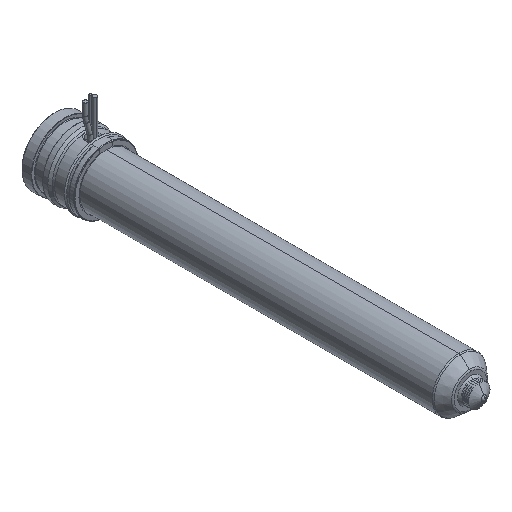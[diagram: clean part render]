
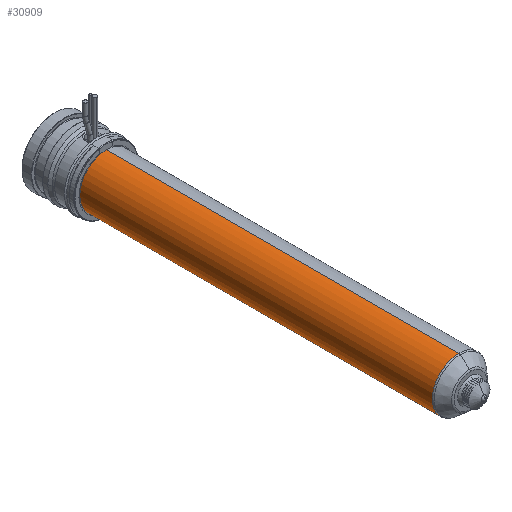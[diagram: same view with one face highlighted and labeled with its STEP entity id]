
A CAD part, isometric view. The second image highlights one B-rep face of the part: STEP entity #30909.
In plain terms, the highlighted cylindrical face has radius 12 mm (diameter 24 mm), a partial arc.
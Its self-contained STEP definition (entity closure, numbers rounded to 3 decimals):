
#30394=CARTESIAN_POINT('',(0.,-24.,0.));
#30395=DIRECTION('',(0.,1.,0.));
#30396=DIRECTION('',(0.,0.,-1.));
#30397=AXIS2_PLACEMENT_3D('',#30394,#30395,#30396);
#30402=DIRECTION('',(0.,1.,0.));
#30403=VECTOR('',#30402,159.736);
#30404=CARTESIAN_POINT('',(0.,-183.736,12.));
#30405=LINE('',#30404,#30403);
#30417=DIRECTION('',(0.,1.,0.));
#30418=VECTOR('',#30417,159.736);
#30419=CARTESIAN_POINT('',(0.,-183.736,-12.));
#30420=LINE('',#30419,#30418);
#30448=CARTESIAN_POINT('',(0.,-183.736,0.));
#30449=DIRECTION('',(0.,-1.,0.));
#30450=DIRECTION('',(0.,0.,1.));
#30451=AXIS2_PLACEMENT_3D('',#30448,#30449,#30450);
#30778=CARTESIAN_POINT('',(0.,-183.736,12.));
#30779=CARTESIAN_POINT('',(0.,-24.,12.));
#30780=VERTEX_POINT('',#30778);
#30781=VERTEX_POINT('',#30779);
#30782=CARTESIAN_POINT('',(0.,-183.736,-12.));
#30783=CARTESIAN_POINT('',(0.,-24.,-12.));
#30784=VERTEX_POINT('',#30782);
#30785=VERTEX_POINT('',#30783);
#30895=CARTESIAN_POINT('',(0.,-11.2,0.));
#30896=DIRECTION('',(0.,-1.,0.));
#30897=DIRECTION('',(0.,0.,1.));
#30898=AXIS2_PLACEMENT_3D('',#30895,#30896,#30897);
#30899=CYLINDRICAL_SURFACE('',#30898,12.);
#30901=ORIENTED_EDGE('',*,*,#30900,.F.);
#30903=ORIENTED_EDGE('',*,*,#30902,.T.);
#30905=ORIENTED_EDGE('',*,*,#30904,.T.);
#30906=ORIENTED_EDGE('',*,*,#30888,.T.);
#30907=EDGE_LOOP('',(#30901,#30903,#30905,#30906));
#30908=FACE_OUTER_BOUND('',#30907,.F.);
#30909=ADVANCED_FACE('',(#30908),#30899,.T.);
#30398=CIRCLE('',#30397,12.);
#30452=CIRCLE('',#30451,12.);
#30888=EDGE_CURVE('',#30785,#30781,#30398,.T.);
#30900=EDGE_CURVE('',#30780,#30781,#30405,.T.);
#30902=EDGE_CURVE('',#30780,#30784,#30452,.T.);
#30904=EDGE_CURVE('',#30784,#30785,#30420,.T.);
